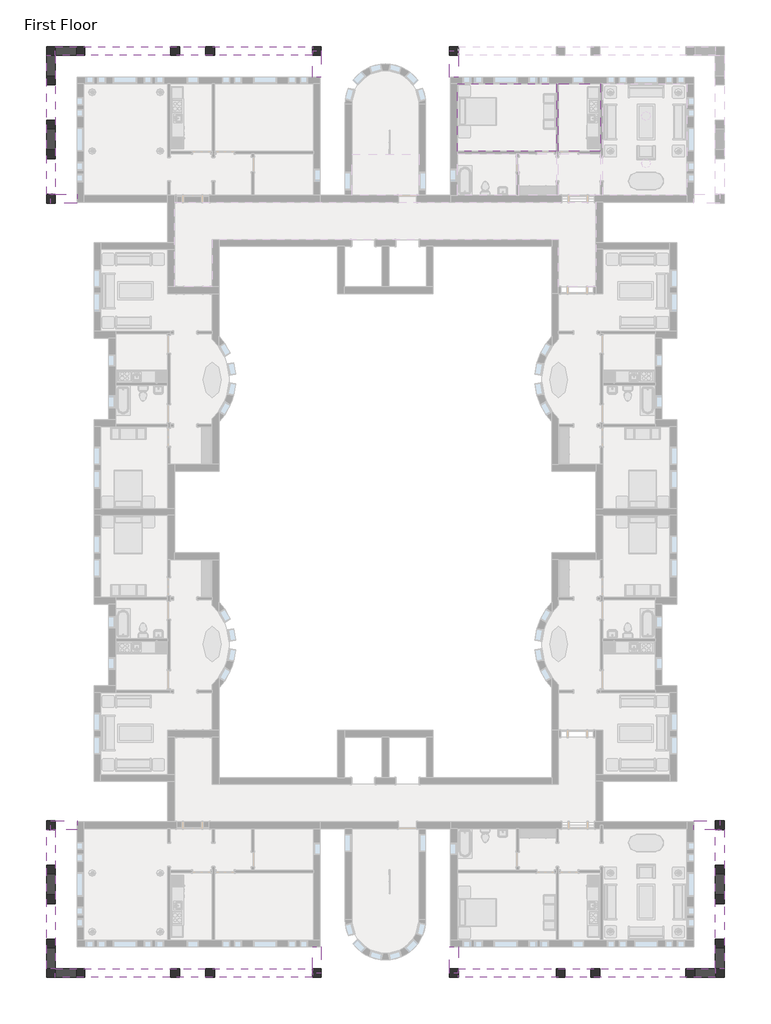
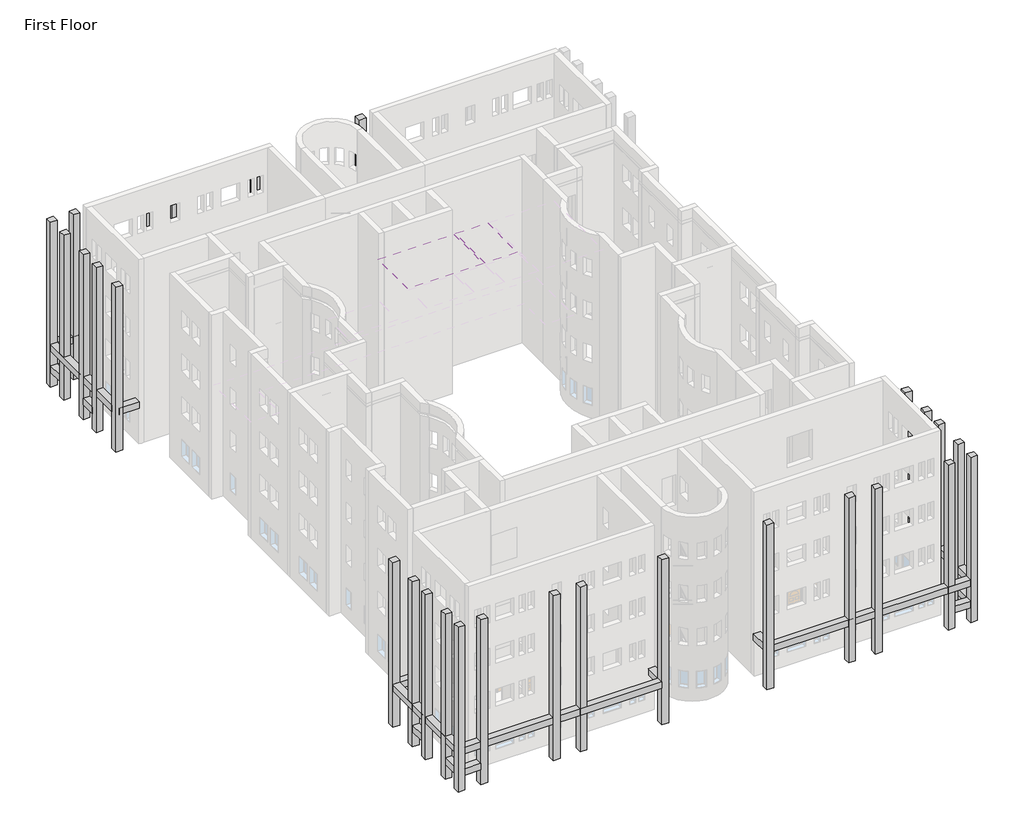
# One storey, part 19 of 24: 28 columns, 22 beams, 2 coverings.
"""IFC4 building model written with IfcOpenShell, lengths in millimetres."""

from ifc_helpers import new_model, si_unit, frame, origin, origin_with_axes, place, context, project, spatial, polyline, outline, extrude, faceted_brep, element, save

model = new_model("IFC4")

# Units and contexts
model_context = context("Model", 3, world=origin())
ifc_project = project(units=[si_unit("LENGTHUNIT", "METRE", prefix="MILLI")], contexts=[model_context])

# Site, building, storey
site = spatial("IfcSite", under=ifc_project)
building = spatial("IfcBuilding", under=site)
storey = spatial("IfcBuildingStorey", under=building, Name="First Floor", Elevation=0.0)

# Beams
placement = place(None, origin())
element("IfcBeam", 1, ObjectType="Concrete-Rectangular Beam : 18 x 18", at=placement, inside=storey, context=model_context, shape_type="Brep", body=[
    faceted_brep([(-11164.8589563, 10624.0316867, 3048.0), (-11622.0589563, 10624.0316867, 3048.0), (-11622.0589563, 10624.0316867, 2590.8), (-11164.8589563, 10624.0316867, 2590.8), (-11164.8589563, 11741.6316867, 3048.0), (-11164.8589563, 11970.2316867, 3048.0), (-11622.0589563, 11970.2316867, 3048.0), (-11622.0589563, 11970.2316867, 2590.8), (-11164.8589563, 11970.2316867, 2590.8), (-11164.8589563, 11741.6316867, 2590.8)], [[[0, 1, 2, 3]], [[1, 0, 4, 5, 6]], [[2, 1, 6, 7]], [[3, 2, 7, 8, 9]], [[0, 3, 9, 8, 5, 4]], [[5, 8, 7, 6]]]),
])
element("IfcBeam", 2, ObjectType="Concrete-Rectangular Beam : 18 x 18", at=placement, inside=storey, context=model_context, shape_type="Brep", body=[
    faceted_brep([(-31964.2839563, 11741.6316867, 3048.0), (-18705.4839563, 11741.6316867, 3048.0), (-18705.4839563, 11970.2316867, 3048.0), (-18705.4839563, 12198.8316867, 3048.0), (-31964.2839563, 12198.8316867, 3048.0), (-31964.2839563, 11741.6316867, 2590.8), (-18705.4839563, 11741.6316867, 2590.8), (-31964.2839563, 12198.8316867, 2590.8), (-18705.4839563, 12198.8316867, 2590.8), (-18705.4839563, 11970.2316867, 2590.8)], [[[0, 1, 2, 3, 4]], [[5, 6, 1, 0]], [[7, 8, 9, 6, 5]], [[4, 3, 8, 7]], [[4, 7, 5, 0]], [[3, 2, 1, 6, 9, 8]]]),
])
element("IfcBeam", 3, ObjectType="Concrete-Rectangular Beam : 18 x 18", at=placement, inside=storey, context=model_context, shape_type="Brep", body=[
    faceted_brep([(-31964.2839563, 4578.8316867, 3048.0), (-31964.2839563, 11741.6316867, 3048.0), (-32421.4839563, 11741.6316867, 3048.0), (-32421.4839563, 4578.8316867, 3048.0), (-32192.8839563, 4578.8316867, 3048.0), (-31964.2839563, 4578.8316867, 2590.8), (-31964.2839563, 11741.6316867, 2590.8), (-32421.4839563, 4578.8316867, 2590.8), (-32421.4839563, 11741.6316867, 2590.8), (-32192.8839563, 4578.8316867, 2590.8)], [[[0, 1, 2, 3, 4]], [[5, 6, 1, 0]], [[7, 8, 6, 5, 9]], [[3, 2, 8, 7]], [[2, 1, 6, 8]], [[3, 7, 9, 5, 0, 4]]]),
])
element("IfcBeam", 4, ObjectType="Concrete-Rectangular Beam : 18 x 18", at=placement, inside=storey, context=model_context, shape_type="Brep", body=[
    faceted_brep([(-18705.4839563, 10624.0316867, 3048.0), (-18705.4839563, 10624.0316867, 2590.8), (-18248.2839563, 10624.0316867, 2590.8), (-18248.2839563, 10624.0316867, 3048.0), (-18248.2839563, 11970.2316867, 3048.0), (-18705.4839563, 11970.2316867, 3048.0), (-18705.4839563, 11741.6316867, 3048.0), (-18248.2839563, 11970.2316867, 2590.8), (-18705.4839563, 11741.6316867, 2590.8), (-18705.4839563, 11970.2316867, 2590.8)], [[[0, 1, 2, 3]], [[3, 4, 5, 6, 0]], [[2, 7, 4, 3]], [[1, 8, 9, 7, 2]], [[0, 6, 5, 9, 8, 1]], [[5, 4, 7, 9]]]),
])
element("IfcBeam", 5, ObjectType="Concrete-Rectangular Beam : 18 x 18", at=placement, inside=storey, context=model_context, shape_type="Brep", body=[
    faceted_brep([(-30846.6839563, 4121.6316867, 3048.0), (-30846.6839563, 4121.6316867, 2590.8), (-30846.6839563, 4578.8316867, 2590.8), (-30846.6839563, 4578.8316867, 3048.0), (-31964.2839563, 4578.8316867, 3048.0), (-32192.8839563, 4578.8316867, 3048.0), (-32192.8839563, 4121.6316867, 3048.0), (-31964.2839563, 4578.8316867, 2590.8), (-32192.8839563, 4578.8316867, 2590.8), (-32192.8839563, 4121.6316867, 2590.8)], [[[0, 1, 2, 3]], [[3, 4, 5, 6, 0]], [[2, 7, 8, 5, 4, 3]], [[1, 9, 8, 7, 2]], [[0, 6, 9, 1]], [[6, 5, 8, 9]]]),
])
element("IfcBeam", 6, ObjectType="Concrete-Rectangular Beam : 18 x 18", at=placement, inside=storey, context=model_context, shape_type="SweptSolid", body=[
    extrude(outline(polyline([(-30897.4839563, 11741.6316867), (-31964.2839563, 11741.6316867), (-31964.2839563, 12198.8316867), (-30897.4839563, 12198.8316867), (-30897.4839563, 11741.6316867)])), frame((0.0, 0.0, 1066.8), z_axis=(0.0, 0.0, 1.0), x_axis=(1.0, 0.0, 0.0)), (0.0, 0.0, 1.0), 457.2),
])
element("IfcBeam", 7, ObjectType="Concrete-Rectangular Beam : 18 x 18", at=placement, inside=storey, context=model_context, shape_type="SweptSolid", body=[
    extrude(outline(polyline([(-32421.4839563, 10674.8316867), (-32421.4839563, 11741.6316867), (-31964.2839563, 11741.6316867), (-31964.2839563, 10674.8316867), (-32421.4839563, 10674.8316867)])), frame((0.0, 0.0, 1066.8), z_axis=(0.0, 0.0, 1.0), x_axis=(1.0, 0.0, 0.0)), (0.0, 0.0, 1.0), 457.2),
])
element("IfcBeam", 8, ObjectType="Concrete-Rectangular Beam : 18 x 18", at=placement, inside=storey, context=model_context, shape_type="SweptSolid", body=[
    extrude(outline(polyline([(-32421.4839563, 6864.8316867), (-32421.4839563, 7931.6316867), (-31964.2839563, 7931.6316867), (-31964.2839563, 6864.8316867), (-32421.4839563, 6864.8316867)])), frame((0.0, 0.0, 1066.8), z_axis=(0.0, 0.0, 1.0), x_axis=(1.0, 0.0, 0.0)), (0.0, 0.0, 1.0), 457.2),
])
element("IfcBeam", 9, ObjectType="Concrete-Rectangular Beam : 18 x 18", at=placement, inside=storey, context=model_context, shape_type="Brep", body=[
    faceted_brep([(2093.9410437, -35349.9683133, 3048.0), (-11164.8589563, -35349.9683133, 3048.0), (-11164.8589563, -35578.5683133, 3048.0), (-11164.8589563, -35807.1683133, 3048.0), (2093.9410437, -35807.1683133, 3048.0), (2093.9410437, -35349.9683133, 2590.8), (-11164.8589563, -35349.9683133, 2590.8), (2093.9410437, -35807.1683133, 2590.8), (-11164.8589563, -35807.1683133, 2590.8), (-11164.8589563, -35578.5683133, 2590.8)], [[[0, 1, 2, 3, 4]], [[5, 6, 1, 0]], [[7, 8, 9, 6, 5]], [[4, 3, 8, 7]], [[4, 7, 5, 0]], [[3, 2, 1, 6, 9, 8]]]),
])
element("IfcBeam", 10, ObjectType="Concrete-Rectangular Beam : 18 x 18", at=placement, inside=storey, context=model_context, shape_type="Brep", body=[
    faceted_brep([(2093.9410437, -28187.1683133, 3048.0), (2093.9410437, -35349.9683133, 3048.0), (2551.1410437, -35349.9683133, 3048.0), (2551.1410437, -28187.1683133, 3048.0), (2322.5410437, -28187.1683133, 3048.0), (2093.9410437, -28187.1683133, 2590.8), (2093.9410437, -35349.9683133, 2590.8), (2551.1410437, -28187.1683133, 2590.8), (2551.1410437, -35349.9683133, 2590.8), (2322.5410437, -28187.1683133, 2590.8)], [[[0, 1, 2, 3, 4]], [[5, 6, 1, 0]], [[7, 8, 6, 5, 9]], [[3, 2, 8, 7]], [[2, 1, 6, 8]], [[3, 7, 9, 5, 0, 4]]]),
])
element("IfcBeam", 11, ObjectType="Concrete-Rectangular Beam : 18 x 18", at=placement, inside=storey, context=model_context, shape_type="Brep", body=[
    faceted_brep([(-11164.8589563, -34232.3683133, 3048.0), (-11164.8589563, -34232.3683133, 2590.8), (-11622.0589563, -34232.3683133, 2590.8), (-11622.0589563, -34232.3683133, 3048.0), (-11622.0589563, -35578.5683133, 3048.0), (-11164.8589563, -35578.5683133, 3048.0), (-11164.8589563, -35349.9683133, 3048.0), (-11622.0589563, -35578.5683133, 2590.8), (-11164.8589563, -35349.9683133, 2590.8), (-11164.8589563, -35578.5683133, 2590.8)], [[[0, 1, 2, 3]], [[3, 4, 5, 6, 0]], [[2, 7, 4, 3]], [[1, 8, 9, 7, 2]], [[0, 6, 5, 9, 8, 1]], [[5, 4, 7, 9]]]),
])
element("IfcBeam", 12, ObjectType="Concrete-Rectangular Beam : 18 x 18", at=placement, inside=storey, context=model_context, shape_type="Brep", body=[
    faceted_brep([(976.3410437, -27729.9683133, 3048.0), (976.3410437, -27729.9683133, 2590.8), (976.3410437, -28187.1683133, 2590.8), (976.3410437, -28187.1683133, 3048.0), (2093.9410437, -28187.1683133, 3048.0), (2322.5410437, -28187.1683133, 3048.0), (2322.5410437, -27729.9683133, 3048.0), (2093.9410437, -28187.1683133, 2590.8), (2322.5410437, -28187.1683133, 2590.8), (2322.5410437, -27729.9683133, 2590.8)], [[[0, 1, 2, 3]], [[3, 4, 5, 6, 0]], [[2, 7, 8, 5, 4, 3]], [[1, 9, 8, 7, 2]], [[0, 6, 9, 1]], [[6, 5, 8, 9]]]),
])
element("IfcBeam", 13, ObjectType="Concrete-Rectangular Beam : 18 x 18", at=placement, inside=storey, context=model_context, shape_type="SweptSolid", body=[
    extrude(outline(polyline([(1027.1410437, -35349.9683133), (2093.9410437, -35349.9683133), (2093.9410437, -35807.1683133), (1027.1410437, -35807.1683133), (1027.1410437, -35349.9683133)])), frame((0.0, 0.0, 1066.8), z_axis=(0.0, 0.0, 1.0), x_axis=(1.0, 0.0, 0.0)), (0.0, 0.0, 1.0), 457.2),
])
element("IfcBeam", 14, ObjectType="Concrete-Rectangular Beam : 18 x 18", at=placement, inside=storey, context=model_context, shape_type="SweptSolid", body=[
    extrude(outline(polyline([(2551.1410437, -34283.1683133), (2551.1410437, -35349.9683133), (2093.9410437, -35349.9683133), (2093.9410437, -34283.1683133), (2551.1410437, -34283.1683133)])), frame((0.0, 0.0, 1066.8), z_axis=(0.0, 0.0, 1.0), x_axis=(1.0, 0.0, 0.0)), (0.0, 0.0, 1.0), 457.2),
])
element("IfcBeam", 15, ObjectType="Concrete-Rectangular Beam : 18 x 18", at=placement, inside=storey, context=model_context, shape_type="SweptSolid", body=[
    extrude(outline(polyline([(2551.1410437, -30473.1683133), (2551.1410437, -31539.9683133), (2093.9410437, -31539.9683133), (2093.9410437, -30473.1683133), (2551.1410437, -30473.1683133)])), frame((0.0, 0.0, 1066.8), z_axis=(0.0, 0.0, 1.0), x_axis=(1.0, 0.0, 0.0)), (0.0, 0.0, 1.0), 457.2),
])
element("IfcBeam", 16, ObjectType="Concrete-Rectangular Beam : 18 x 18", at=placement, inside=storey, context=model_context, shape_type="Brep", body=[
    faceted_brep([(-31964.2839563, -35349.9683133, 3048.0), (-31964.2839563, -35807.1683133, 3048.0), (-18705.4839563, -35807.1683133, 3048.0), (-18705.4839563, -35578.5683133, 3048.0), (-18705.4839563, -35349.9683133, 3048.0), (-31964.2839563, -35349.9683133, 2590.8), (-18705.4839563, -35349.9683133, 2590.8), (-31964.2839563, -35807.1683133, 2590.8), (-18705.4839563, -35578.5683133, 2590.8), (-18705.4839563, -35807.1683133, 2590.8)], [[[0, 1, 2, 3, 4]], [[5, 0, 4, 6]], [[7, 5, 6, 8, 9]], [[1, 7, 9, 2]], [[1, 0, 5, 7]], [[2, 9, 8, 6, 4, 3]]]),
])
element("IfcBeam", 17, ObjectType="Concrete-Rectangular Beam : 18 x 18", at=placement, inside=storey, context=model_context, shape_type="Brep", body=[
    faceted_brep([(-31964.2839563, -28187.1683133, 3048.0), (-32192.8839563, -28187.1683133, 3048.0), (-32421.4839563, -28187.1683133, 3048.0), (-32421.4839563, -35349.9683133, 3048.0), (-31964.2839563, -35349.9683133, 3048.0), (-31964.2839563, -28187.1683133, 2590.8), (-31964.2839563, -35349.9683133, 2590.8), (-32421.4839563, -28187.1683133, 2590.8), (-32192.8839563, -28187.1683133, 2590.8), (-32421.4839563, -35349.9683133, 2590.8)], [[[0, 1, 2, 3, 4]], [[5, 0, 4, 6]], [[7, 8, 5, 6, 9]], [[2, 7, 9, 3]], [[3, 9, 6, 4]], [[2, 1, 0, 5, 8, 7]]]),
])
element("IfcBeam", 18, ObjectType="Concrete-Rectangular Beam : 18 x 18", at=placement, inside=storey, context=model_context, shape_type="Brep", body=[
    faceted_brep([(-18705.4839563, -34232.3683133, 3048.0), (-18248.2839563, -34232.3683133, 3048.0), (-18248.2839563, -34232.3683133, 2590.8), (-18705.4839563, -34232.3683133, 2590.8), (-18705.4839563, -35349.9683133, 3048.0), (-18705.4839563, -35578.5683133, 3048.0), (-18248.2839563, -35578.5683133, 3048.0), (-18248.2839563, -35578.5683133, 2590.8), (-18705.4839563, -35578.5683133, 2590.8), (-18705.4839563, -35349.9683133, 2590.8)], [[[0, 1, 2, 3]], [[1, 0, 4, 5, 6]], [[2, 1, 6, 7]], [[3, 2, 7, 8, 9]], [[0, 3, 9, 8, 5, 4]], [[5, 8, 7, 6]]]),
])
element("IfcBeam", 19, ObjectType="Concrete-Rectangular Beam : 18 x 18", at=placement, inside=storey, context=model_context, shape_type="Brep", body=[
    faceted_brep([(-30846.6839563, -27729.9683133, 3048.0), (-30846.6839563, -28187.1683133, 3048.0), (-30846.6839563, -28187.1683133, 2590.8), (-30846.6839563, -27729.9683133, 2590.8), (-32192.8839563, -27729.9683133, 3048.0), (-32192.8839563, -28187.1683133, 3048.0), (-31964.2839563, -28187.1683133, 3048.0), (-32192.8839563, -28187.1683133, 2590.8), (-31964.2839563, -28187.1683133, 2590.8), (-32192.8839563, -27729.9683133, 2590.8)], [[[0, 1, 2, 3]], [[1, 0, 4, 5, 6]], [[2, 1, 6, 5, 7, 8]], [[3, 2, 8, 7, 9]], [[0, 3, 9, 4]], [[4, 9, 7, 5]]]),
])
element("IfcBeam", 20, ObjectType="Concrete-Rectangular Beam : 18 x 18", at=placement, inside=storey, context=model_context, shape_type="SweptSolid", body=[
    extrude(outline(polyline([(-30897.4839563, -35349.9683133), (-30897.4839563, -35807.1683133), (-31964.2839563, -35807.1683133), (-31964.2839563, -35349.9683133), (-30897.4839563, -35349.9683133)])), frame((0.0, 0.0, 1066.8), z_axis=(0.0, 0.0, 1.0), x_axis=(1.0, 0.0, 0.0)), (0.0, 0.0, 1.0), 457.2),
])
element("IfcBeam", 21, ObjectType="Concrete-Rectangular Beam : 18 x 18", at=placement, inside=storey, context=model_context, shape_type="SweptSolid", body=[
    extrude(outline(polyline([(-32421.4839563, -34283.1683133), (-31964.2839563, -34283.1683133), (-31964.2839563, -35349.9683133), (-32421.4839563, -35349.9683133), (-32421.4839563, -34283.1683133)])), frame((0.0, 0.0, 1066.8), z_axis=(0.0, 0.0, 1.0), x_axis=(1.0, 0.0, 0.0)), (0.0, 0.0, 1.0), 457.2),
])
element("IfcBeam", 22, ObjectType="Concrete-Rectangular Beam : 18 x 18", at=placement, inside=storey, context=model_context, shape_type="SweptSolid", body=[
    extrude(outline(polyline([(-32421.4839563, -30473.1683133), (-31964.2839563, -30473.1683133), (-31964.2839563, -31539.9683133), (-32421.4839563, -31539.9683133), (-32421.4839563, -30473.1683133)])), frame((0.0, 0.0, 1066.8), z_axis=(0.0, 0.0, 1.0), x_axis=(1.0, 0.0, 0.0)), (0.0, 0.0, 1.0), 457.2),
])

# Columns
element("IfcColumn", 23, ObjectType="Concrete-Square-Column : 18 x 18", at=placement, inside=storey, context=model_context, shape_type="SweptSolid", body=[
    extrude(outline(polyline([(-11164.8589563, 12198.8316867), (-11164.8589563, 11741.6316867), (-11622.0589563, 11741.6316867), (-11622.0589563, 12198.8316867), (-11164.8589563, 12198.8316867)])), origin_with_axes(), (0.0, 0.0, 1.0), 11734.8),
])
element("IfcColumn", 24, ObjectType="Concrete-Square-Column : 18 x 18", at=placement, inside=storey, context=model_context, shape_type="Brep", body=[
    faceted_brep([(-30897.4839563, 12198.8316867, 11734.8), (-30897.4839563, 11741.6316867, 11734.8), (-30440.2839563, 11741.6316867, 11734.8), (-30440.2839563, 12198.8316867, 11734.8), (-30897.4839563, 12198.8316867, 0.0), (-30440.2839563, 12198.8316867, 0.0), (-30440.2839563, 11741.6316867, 0.0), (-30897.4839563, 11741.6316867, 0.0), (-30440.2839563, 12198.8316867, 9144.0), (-30440.2839563, 12198.8316867, 8686.8), (-30440.2839563, 12198.8316867, 6096.0), (-30440.2839563, 12198.8316867, 5638.8), (-30897.4839563, 12198.8316867, 5638.8), (-30897.4839563, 12198.8316867, 6096.0), (-30897.4839563, 12198.8316867, 8686.8), (-30897.4839563, 12198.8316867, 9144.0), (-30440.2839563, 11741.6316867, 9144.0), (-30440.2839563, 11741.6316867, 8686.8), (-30440.2839563, 11741.6316867, 6096.0), (-30440.2839563, 11741.6316867, 5638.8), (-30897.4839563, 11741.6316867, 9144.0), (-30897.4839563, 11741.6316867, 8686.8), (-30897.4839563, 11741.6316867, 6096.0), (-30897.4839563, 11741.6316867, 5638.8)], [[[0, 1, 2, 3]], [[4, 5, 6, 7]], [[3, 8, 9, 10, 11, 5, 4, 12, 13, 14, 15, 0]], [[2, 16, 17, 18, 19, 6, 5, 11, 10, 9, 8, 3]], [[1, 20, 21, 22, 23, 7, 6, 19, 18, 17, 16, 2]], [[0, 15, 14, 13, 12, 4, 7, 23, 22, 21, 20, 1]]]),
])
element("IfcColumn", 25, ObjectType="Concrete-Square-Column : 18 x 18", at=placement, inside=storey, context=model_context, shape_type="Brep", body=[
    faceted_brep([(-32421.4839563, 10674.8316867, 11734.8), (-32421.4839563, 10217.6316867, 11734.8), (-31964.2839563, 10217.6316867, 11734.8), (-31964.2839563, 10674.8316867, 11734.8), (-32421.4839563, 10674.8316867, 0.0), (-31964.2839563, 10674.8316867, 0.0), (-31964.2839563, 10217.6316867, 0.0), (-32421.4839563, 10217.6316867, 0.0), (-32421.4839563, 10674.8316867, 9144.0), (-32421.4839563, 10674.8316867, 8686.8), (-32421.4839563, 10674.8316867, 6096.0), (-32421.4839563, 10674.8316867, 5638.8), (-32421.4839563, 10217.6316867, 5638.8), (-32421.4839563, 10217.6316867, 6096.0), (-32421.4839563, 10217.6316867, 8686.8), (-32421.4839563, 10217.6316867, 9144.0), (-31964.2839563, 10217.6316867, 5638.8), (-31964.2839563, 10217.6316867, 6096.0), (-31964.2839563, 10217.6316867, 8686.8), (-31964.2839563, 10217.6316867, 9144.0), (-31964.2839563, 10674.8316867, 5638.8), (-31964.2839563, 10674.8316867, 6096.0), (-31964.2839563, 10674.8316867, 8686.8), (-31964.2839563, 10674.8316867, 9144.0)], [[[0, 1, 2, 3]], [[4, 5, 6, 7]], [[1, 0, 8, 9, 10, 11, 4, 7, 12, 13, 14, 15]], [[2, 1, 15, 14, 13, 12, 7, 6, 16, 17, 18, 19]], [[3, 2, 19, 18, 17, 16, 6, 5, 20, 21, 22, 23]], [[0, 3, 23, 22, 21, 20, 5, 4, 11, 10, 9, 8]]]),
])
element("IfcColumn", 26, ObjectType="Concrete-Square-Column : 18 x 18", at=placement, inside=storey, context=model_context, shape_type="SweptSolid", body=[
    extrude(outline(polyline([(-18705.4839563, 12198.8316867), (-18248.2839563, 12198.8316867), (-18248.2839563, 11741.6316867), (-18705.4839563, 11741.6316867), (-18705.4839563, 12198.8316867)])), origin_with_axes(), (0.0, 0.0, 1.0), 11734.8),
])
element("IfcColumn", 27, ObjectType="Concrete-Square-Column : 18 x 18", at=placement, inside=storey, context=model_context, shape_type="SweptSolid", body=[
    extrude(outline(polyline([(-32421.4839563, 4578.8316867), (-31964.2839563, 4578.8316867), (-31964.2839563, 4121.6316867), (-32421.4839563, 4121.6316867), (-32421.4839563, 4578.8316867)])), origin_with_axes(), (0.0, 0.0, 1.0), 11734.8),
])
element("IfcColumn", 28, ObjectType="Concrete-Square-Column : 18 x 18", at=placement, inside=storey, context=model_context, shape_type="SweptSolid", body=[
    extrude(outline(polyline([(-32421.4839563, 12198.8316867), (-31964.2839563, 12198.8316867), (-31964.2839563, 11741.6316867), (-32421.4839563, 11741.6316867), (-32421.4839563, 12198.8316867)])), origin_with_axes(), (0.0, 0.0, 1.0), 11734.8),
])
element("IfcColumn", 29, ObjectType="Concrete-Square-Column : 18 x 18", at=placement, inside=storey, context=model_context, shape_type="Brep", body=[
    faceted_brep([(-26007.9839563, 12198.8316867, 11734.8), (-26007.9839563, 11741.6316867, 11734.8), (-25550.7839563, 11741.6316867, 11734.8), (-25550.7839563, 12198.8316867, 11734.8), (-26007.9839563, 12198.8316867, 0.0), (-25550.7839563, 12198.8316867, 0.0), (-25550.7839563, 11741.6316867, 0.0), (-26007.9839563, 11741.6316867, 0.0), (-25550.7839563, 12198.8316867, 9144.0), (-25550.7839563, 12198.8316867, 8686.8), (-25550.7839563, 12198.8316867, 6096.0), (-25550.7839563, 12198.8316867, 5638.8), (-26007.9839563, 12198.8316867, 5638.8), (-26007.9839563, 12198.8316867, 6096.0), (-26007.9839563, 12198.8316867, 8686.8), (-26007.9839563, 12198.8316867, 9144.0), (-25550.7839563, 11741.6316867, 9144.0), (-25550.7839563, 11741.6316867, 8686.8), (-25550.7839563, 11741.6316867, 6096.0), (-25550.7839563, 11741.6316867, 5638.8), (-26007.9839563, 11741.6316867, 9144.0), (-26007.9839563, 11741.6316867, 8686.8), (-26007.9839563, 11741.6316867, 6096.0), (-26007.9839563, 11741.6316867, 5638.8)], [[[0, 1, 2, 3]], [[4, 5, 6, 7]], [[3, 8, 9, 10, 11, 5, 4, 12, 13, 14, 15, 0]], [[2, 16, 17, 18, 19, 6, 5, 11, 10, 9, 8, 3]], [[1, 20, 21, 22, 23, 7, 6, 19, 18, 17, 16, 2]], [[0, 15, 14, 13, 12, 4, 7, 23, 22, 21, 20, 1]]]),
])
element("IfcColumn", 30, ObjectType="Concrete-Square-Column : 18 x 18", at=placement, inside=storey, context=model_context, shape_type="Brep", body=[
    faceted_brep([(-23747.3839563, 12198.8316867, 11734.8), (-24204.5839563, 12198.8316867, 11734.8), (-24204.5839563, 11741.6316867, 11734.8), (-23747.3839563, 11741.6316867, 11734.8), (-23747.3839563, 12198.8316867, 0.0), (-23747.3839563, 11741.6316867, 0.0), (-24204.5839563, 11741.6316867, 0.0), (-24204.5839563, 12198.8316867, 0.0), (-23747.3839563, 12198.8316867, 9144.0), (-23747.3839563, 12198.8316867, 8686.8), (-23747.3839563, 12198.8316867, 6096.0), (-23747.3839563, 12198.8316867, 5638.8), (-24204.5839563, 12198.8316867, 5638.8), (-24204.5839563, 12198.8316867, 6096.0), (-24204.5839563, 12198.8316867, 8686.8), (-24204.5839563, 12198.8316867, 9144.0), (-24204.5839563, 11741.6316867, 5638.8), (-24204.5839563, 11741.6316867, 6096.0), (-24204.5839563, 11741.6316867, 8686.8), (-24204.5839563, 11741.6316867, 9144.0), (-23747.3839563, 11741.6316867, 5638.8), (-23747.3839563, 11741.6316867, 6096.0), (-23747.3839563, 11741.6316867, 8686.8), (-23747.3839563, 11741.6316867, 9144.0)], [[[0, 1, 2, 3]], [[4, 5, 6, 7]], [[1, 0, 8, 9, 10, 11, 4, 7, 12, 13, 14, 15]], [[2, 1, 15, 14, 13, 12, 7, 6, 16, 17, 18, 19]], [[3, 2, 19, 18, 17, 16, 6, 5, 20, 21, 22, 23]], [[0, 3, 23, 22, 21, 20, 5, 4, 11, 10, 9, 8]]]),
])
element("IfcColumn", 31, ObjectType="Concrete-Square-Column : 18 x 18", at=placement, inside=storey, context=model_context, shape_type="Brep", body=[
    faceted_brep([(-32421.4839563, 6864.8316867, 11734.8), (-32421.4839563, 6407.6316867, 11734.8), (-31964.2839563, 6407.6316867, 11734.8), (-31964.2839563, 6864.8316867, 11734.8), (-32421.4839563, 6864.8316867, 0.0), (-31964.2839563, 6864.8316867, 0.0), (-31964.2839563, 6407.6316867, 0.0), (-32421.4839563, 6407.6316867, 0.0), (-32421.4839563, 6864.8316867, 9144.0), (-32421.4839563, 6864.8316867, 8686.8), (-32421.4839563, 6864.8316867, 6096.0), (-32421.4839563, 6864.8316867, 5638.8), (-32421.4839563, 6407.6316867, 5638.8), (-32421.4839563, 6407.6316867, 6096.0), (-32421.4839563, 6407.6316867, 8686.8), (-32421.4839563, 6407.6316867, 9144.0), (-31964.2839563, 6407.6316867, 5638.8), (-31964.2839563, 6407.6316867, 6096.0), (-31964.2839563, 6407.6316867, 8686.8), (-31964.2839563, 6407.6316867, 9144.0), (-31964.2839563, 6864.8316867, 5638.8), (-31964.2839563, 6864.8316867, 6096.0), (-31964.2839563, 6864.8316867, 8686.8), (-31964.2839563, 6864.8316867, 9144.0)], [[[0, 1, 2, 3]], [[4, 5, 6, 7]], [[1, 0, 8, 9, 10, 11, 4, 7, 12, 13, 14, 15]], [[2, 1, 15, 14, 13, 12, 7, 6, 16, 17, 18, 19]], [[3, 2, 19, 18, 17, 16, 6, 5, 20, 21, 22, 23]], [[0, 3, 23, 22, 21, 20, 5, 4, 11, 10, 9, 8]]]),
])
element("IfcColumn", 32, ObjectType="Concrete-Square-Column : 18 x 18", at=placement, inside=storey, context=model_context, shape_type="Brep", body=[
    faceted_brep([(-32421.4839563, 8388.8316867, 11734.8), (-32421.4839563, 7931.6316867, 11734.8), (-31964.2839563, 7931.6316867, 11734.8), (-31964.2839563, 8388.8316867, 11734.8), (-32421.4839563, 8388.8316867, 0.0), (-31964.2839563, 8388.8316867, 0.0), (-31964.2839563, 7931.6316867, 0.0), (-32421.4839563, 7931.6316867, 0.0), (-31964.2839563, 8388.8316867, 9144.0), (-31964.2839563, 8388.8316867, 8686.8), (-31964.2839563, 8388.8316867, 6096.0), (-31964.2839563, 8388.8316867, 5638.8), (-32421.4839563, 8388.8316867, 5638.8), (-32421.4839563, 8388.8316867, 6096.0), (-32421.4839563, 8388.8316867, 8686.8), (-32421.4839563, 8388.8316867, 9144.0), (-31964.2839563, 7931.6316867, 9144.0), (-31964.2839563, 7931.6316867, 8686.8), (-31964.2839563, 7931.6316867, 6096.0), (-31964.2839563, 7931.6316867, 5638.8), (-32421.4839563, 7931.6316867, 9144.0), (-32421.4839563, 7931.6316867, 8686.8), (-32421.4839563, 7931.6316867, 6096.0), (-32421.4839563, 7931.6316867, 5638.8)], [[[0, 1, 2, 3]], [[4, 5, 6, 7]], [[3, 8, 9, 10, 11, 5, 4, 12, 13, 14, 15, 0]], [[2, 16, 17, 18, 19, 6, 5, 11, 10, 9, 8, 3]], [[1, 20, 21, 22, 23, 7, 6, 19, 18, 17, 16, 2]], [[0, 15, 14, 13, 12, 4, 7, 23, 22, 21, 20, 1]]]),
])
element("IfcColumn", 33, ObjectType="Concrete-Square-Column : 18 x 18", at=placement, inside=storey, context=model_context, shape_type="Brep", body=[
    faceted_brep([(1027.1410437, -35807.1683133, 11734.8), (1027.1410437, -35349.9683133, 11734.8), (569.9410437, -35349.9683133, 11734.8), (569.9410437, -35807.1683133, 11734.8), (1027.1410437, -35807.1683133, 0.0), (569.9410437, -35807.1683133, 0.0), (569.9410437, -35349.9683133, 0.0), (1027.1410437, -35349.9683133, 0.0), (569.9410437, -35807.1683133, 9144.0), (569.9410437, -35807.1683133, 8686.8), (569.9410437, -35807.1683133, 6096.0), (569.9410437, -35807.1683133, 5638.8), (1027.1410437, -35807.1683133, 5638.8), (1027.1410437, -35807.1683133, 6096.0), (1027.1410437, -35807.1683133, 8686.8), (1027.1410437, -35807.1683133, 9144.0), (569.9410437, -35349.9683133, 9144.0), (569.9410437, -35349.9683133, 8686.8), (569.9410437, -35349.9683133, 6096.0), (569.9410437, -35349.9683133, 5638.8), (1027.1410437, -35349.9683133, 9144.0), (1027.1410437, -35349.9683133, 8686.8), (1027.1410437, -35349.9683133, 6096.0), (1027.1410437, -35349.9683133, 5638.8)], [[[0, 1, 2, 3]], [[4, 5, 6, 7]], [[3, 8, 9, 10, 11, 5, 4, 12, 13, 14, 15, 0]], [[2, 16, 17, 18, 19, 6, 5, 11, 10, 9, 8, 3]], [[1, 20, 21, 22, 23, 7, 6, 19, 18, 17, 16, 2]], [[0, 15, 14, 13, 12, 4, 7, 23, 22, 21, 20, 1]]]),
])
element("IfcColumn", 34, ObjectType="Concrete-Square-Column : 18 x 18", at=placement, inside=storey, context=model_context, shape_type="Brep", body=[
    faceted_brep([(2551.1410437, -34283.1683133, 11734.8), (2551.1410437, -33825.9683133, 11734.8), (2093.9410437, -33825.9683133, 11734.8), (2093.9410437, -34283.1683133, 11734.8), (2551.1410437, -34283.1683133, 0.0), (2093.9410437, -34283.1683133, 0.0), (2093.9410437, -33825.9683133, 0.0), (2551.1410437, -33825.9683133, 0.0), (2551.1410437, -34283.1683133, 9144.0), (2551.1410437, -34283.1683133, 8686.8), (2551.1410437, -34283.1683133, 6096.0), (2551.1410437, -34283.1683133, 5638.8), (2551.1410437, -33825.9683133, 5638.8), (2551.1410437, -33825.9683133, 6096.0), (2551.1410437, -33825.9683133, 8686.8), (2551.1410437, -33825.9683133, 9144.0), (2093.9410437, -33825.9683133, 5638.8), (2093.9410437, -33825.9683133, 6096.0), (2093.9410437, -33825.9683133, 8686.8), (2093.9410437, -33825.9683133, 9144.0), (2093.9410437, -34283.1683133, 5638.8), (2093.9410437, -34283.1683133, 6096.0), (2093.9410437, -34283.1683133, 8686.8), (2093.9410437, -34283.1683133, 9144.0)], [[[0, 1, 2, 3]], [[4, 5, 6, 7]], [[1, 0, 8, 9, 10, 11, 4, 7, 12, 13, 14, 15]], [[2, 1, 15, 14, 13, 12, 7, 6, 16, 17, 18, 19]], [[3, 2, 19, 18, 17, 16, 6, 5, 20, 21, 22, 23]], [[0, 3, 23, 22, 21, 20, 5, 4, 11, 10, 9, 8]]]),
])
element("IfcColumn", 35, ObjectType="Concrete-Square-Column : 18 x 18", at=placement, inside=storey, context=model_context, shape_type="SweptSolid", body=[
    extrude(outline(polyline([(-11164.8589563, -35807.1683133), (-11622.0589563, -35807.1683133), (-11622.0589563, -35349.9683133), (-11164.8589563, -35349.9683133), (-11164.8589563, -35807.1683133)])), origin_with_axes(), (0.0, 0.0, 1.0), 11734.8),
])
element("IfcColumn", 36, ObjectType="Concrete-Square-Column : 18 x 18", at=placement, inside=storey, context=model_context, shape_type="SweptSolid", body=[
    extrude(outline(polyline([(2551.1410437, -28187.1683133), (2093.9410437, -28187.1683133), (2093.9410437, -27729.9683133), (2551.1410437, -27729.9683133), (2551.1410437, -28187.1683133)])), origin_with_axes(), (0.0, 0.0, 1.0), 11734.8),
])
element("IfcColumn", 37, ObjectType="Concrete-Square-Column : 18 x 18", at=placement, inside=storey, context=model_context, shape_type="SweptSolid", body=[
    extrude(outline(polyline([(2551.1410437, -35807.1683133), (2093.9410437, -35807.1683133), (2093.9410437, -35349.9683133), (2551.1410437, -35349.9683133), (2551.1410437, -35807.1683133)])), origin_with_axes(), (0.0, 0.0, 1.0), 11734.8),
])
element("IfcColumn", 38, ObjectType="Concrete-Square-Column : 18 x 18", at=placement, inside=storey, context=model_context, shape_type="Brep", body=[
    faceted_brep([(-3862.3589563, -35807.1683133, 11734.8), (-3862.3589563, -35349.9683133, 11734.8), (-4319.5589563, -35349.9683133, 11734.8), (-4319.5589563, -35807.1683133, 11734.8), (-3862.3589563, -35807.1683133, 0.0), (-4319.5589563, -35807.1683133, 0.0), (-4319.5589563, -35349.9683133, 0.0), (-3862.3589563, -35349.9683133, 0.0), (-4319.5589563, -35807.1683133, 9144.0), (-4319.5589563, -35807.1683133, 8686.8), (-4319.5589563, -35807.1683133, 6096.0), (-4319.5589563, -35807.1683133, 5638.8), (-3862.3589563, -35807.1683133, 5638.8), (-3862.3589563, -35807.1683133, 6096.0), (-3862.3589563, -35807.1683133, 8686.8), (-3862.3589563, -35807.1683133, 9144.0), (-4319.5589563, -35349.9683133, 9144.0), (-4319.5589563, -35349.9683133, 8686.8), (-4319.5589563, -35349.9683133, 6096.0), (-4319.5589563, -35349.9683133, 5638.8), (-3862.3589563, -35349.9683133, 9144.0), (-3862.3589563, -35349.9683133, 8686.8), (-3862.3589563, -35349.9683133, 6096.0), (-3862.3589563, -35349.9683133, 5638.8)], [[[0, 1, 2, 3]], [[4, 5, 6, 7]], [[3, 8, 9, 10, 11, 5, 4, 12, 13, 14, 15, 0]], [[2, 16, 17, 18, 19, 6, 5, 11, 10, 9, 8, 3]], [[1, 20, 21, 22, 23, 7, 6, 19, 18, 17, 16, 2]], [[0, 15, 14, 13, 12, 4, 7, 23, 22, 21, 20, 1]]]),
])
element("IfcColumn", 39, ObjectType="Concrete-Square-Column : 18 x 18", at=placement, inside=storey, context=model_context, shape_type="Brep", body=[
    faceted_brep([(-6122.9589563, -35807.1683133, 11734.8), (-5665.7589563, -35807.1683133, 11734.8), (-5665.7589563, -35349.9683133, 11734.8), (-6122.9589563, -35349.9683133, 11734.8), (-6122.9589563, -35807.1683133, 0.0), (-6122.9589563, -35349.9683133, 0.0), (-5665.7589563, -35349.9683133, 0.0), (-5665.7589563, -35807.1683133, 0.0), (-6122.9589563, -35807.1683133, 9144.0), (-6122.9589563, -35807.1683133, 8686.8), (-6122.9589563, -35807.1683133, 6096.0), (-6122.9589563, -35807.1683133, 5638.8), (-5665.7589563, -35807.1683133, 5638.8), (-5665.7589563, -35807.1683133, 6096.0), (-5665.7589563, -35807.1683133, 8686.8), (-5665.7589563, -35807.1683133, 9144.0), (-5665.7589563, -35349.9683133, 5638.8), (-5665.7589563, -35349.9683133, 6096.0), (-5665.7589563, -35349.9683133, 8686.8), (-5665.7589563, -35349.9683133, 9144.0), (-6122.9589563, -35349.9683133, 5638.8), (-6122.9589563, -35349.9683133, 6096.0), (-6122.9589563, -35349.9683133, 8686.8), (-6122.9589563, -35349.9683133, 9144.0)], [[[0, 1, 2, 3]], [[4, 5, 6, 7]], [[1, 0, 8, 9, 10, 11, 4, 7, 12, 13, 14, 15]], [[2, 1, 15, 14, 13, 12, 7, 6, 16, 17, 18, 19]], [[3, 2, 19, 18, 17, 16, 6, 5, 20, 21, 22, 23]], [[0, 3, 23, 22, 21, 20, 5, 4, 11, 10, 9, 8]]]),
])
element("IfcColumn", 40, ObjectType="Concrete-Square-Column : 18 x 18", at=placement, inside=storey, context=model_context, shape_type="Brep", body=[
    faceted_brep([(2551.1410437, -30473.1683133, 11734.8), (2551.1410437, -30015.9683133, 11734.8), (2093.9410437, -30015.9683133, 11734.8), (2093.9410437, -30473.1683133, 11734.8), (2551.1410437, -30473.1683133, 0.0), (2093.9410437, -30473.1683133, 0.0), (2093.9410437, -30015.9683133, 0.0), (2551.1410437, -30015.9683133, 0.0), (2551.1410437, -30473.1683133, 9144.0), (2551.1410437, -30473.1683133, 8686.8), (2551.1410437, -30473.1683133, 6096.0), (2551.1410437, -30473.1683133, 5638.8), (2551.1410437, -30015.9683133, 5638.8), (2551.1410437, -30015.9683133, 6096.0), (2551.1410437, -30015.9683133, 8686.8), (2551.1410437, -30015.9683133, 9144.0), (2093.9410437, -30015.9683133, 5638.8), (2093.9410437, -30015.9683133, 6096.0), (2093.9410437, -30015.9683133, 8686.8), (2093.9410437, -30015.9683133, 9144.0), (2093.9410437, -30473.1683133, 5638.8), (2093.9410437, -30473.1683133, 6096.0), (2093.9410437, -30473.1683133, 8686.8), (2093.9410437, -30473.1683133, 9144.0)], [[[0, 1, 2, 3]], [[4, 5, 6, 7]], [[1, 0, 8, 9, 10, 11, 4, 7, 12, 13, 14, 15]], [[2, 1, 15, 14, 13, 12, 7, 6, 16, 17, 18, 19]], [[3, 2, 19, 18, 17, 16, 6, 5, 20, 21, 22, 23]], [[0, 3, 23, 22, 21, 20, 5, 4, 11, 10, 9, 8]]]),
])
element("IfcColumn", 41, ObjectType="Concrete-Square-Column : 18 x 18", at=placement, inside=storey, context=model_context, shape_type="Brep", body=[
    faceted_brep([(2551.1410437, -31997.1683133, 11734.8), (2551.1410437, -31539.9683133, 11734.8), (2093.9410437, -31539.9683133, 11734.8), (2093.9410437, -31997.1683133, 11734.8), (2551.1410437, -31997.1683133, 0.0), (2093.9410437, -31997.1683133, 0.0), (2093.9410437, -31539.9683133, 0.0), (2551.1410437, -31539.9683133, 0.0), (2093.9410437, -31997.1683133, 9144.0), (2093.9410437, -31997.1683133, 8686.8), (2093.9410437, -31997.1683133, 6096.0), (2093.9410437, -31997.1683133, 5638.8), (2551.1410437, -31997.1683133, 5638.8), (2551.1410437, -31997.1683133, 6096.0), (2551.1410437, -31997.1683133, 8686.8), (2551.1410437, -31997.1683133, 9144.0), (2093.9410437, -31539.9683133, 9144.0), (2093.9410437, -31539.9683133, 8686.8), (2093.9410437, -31539.9683133, 6096.0), (2093.9410437, -31539.9683133, 5638.8), (2551.1410437, -31539.9683133, 9144.0), (2551.1410437, -31539.9683133, 8686.8), (2551.1410437, -31539.9683133, 6096.0), (2551.1410437, -31539.9683133, 5638.8)], [[[0, 1, 2, 3]], [[4, 5, 6, 7]], [[3, 8, 9, 10, 11, 5, 4, 12, 13, 14, 15, 0]], [[2, 16, 17, 18, 19, 6, 5, 11, 10, 9, 8, 3]], [[1, 20, 21, 22, 23, 7, 6, 19, 18, 17, 16, 2]], [[0, 15, 14, 13, 12, 4, 7, 23, 22, 21, 20, 1]]]),
])
element("IfcColumn", 42, ObjectType="Concrete-Square-Column : 18 x 18", at=placement, inside=storey, context=model_context, shape_type="Brep", body=[
    faceted_brep([(-30897.4839563, -35807.1683133, 11734.8), (-30440.2839563, -35807.1683133, 11734.8), (-30440.2839563, -35349.9683133, 11734.8), (-30897.4839563, -35349.9683133, 11734.8), (-30897.4839563, -35807.1683133, 0.0), (-30897.4839563, -35349.9683133, 0.0), (-30440.2839563, -35349.9683133, 0.0), (-30440.2839563, -35807.1683133, 0.0), (-30897.4839563, -35807.1683133, 9144.0), (-30897.4839563, -35807.1683133, 8686.8), (-30897.4839563, -35807.1683133, 6096.0), (-30897.4839563, -35807.1683133, 5638.8), (-30440.2839563, -35807.1683133, 5638.8), (-30440.2839563, -35807.1683133, 6096.0), (-30440.2839563, -35807.1683133, 8686.8), (-30440.2839563, -35807.1683133, 9144.0), (-30440.2839563, -35349.9683133, 5638.8), (-30440.2839563, -35349.9683133, 6096.0), (-30440.2839563, -35349.9683133, 8686.8), (-30440.2839563, -35349.9683133, 9144.0), (-30897.4839563, -35349.9683133, 5638.8), (-30897.4839563, -35349.9683133, 6096.0), (-30897.4839563, -35349.9683133, 8686.8), (-30897.4839563, -35349.9683133, 9144.0)], [[[0, 1, 2, 3]], [[4, 5, 6, 7]], [[1, 0, 8, 9, 10, 11, 4, 7, 12, 13, 14, 15]], [[2, 1, 15, 14, 13, 12, 7, 6, 16, 17, 18, 19]], [[3, 2, 19, 18, 17, 16, 6, 5, 20, 21, 22, 23]], [[0, 3, 23, 22, 21, 20, 5, 4, 11, 10, 9, 8]]]),
])
element("IfcColumn", 43, ObjectType="Concrete-Square-Column : 18 x 18", at=placement, inside=storey, context=model_context, shape_type="Brep", body=[
    faceted_brep([(-32421.4839563, -34283.1683133, 11734.8), (-31964.2839563, -34283.1683133, 11734.8), (-31964.2839563, -33825.9683133, 11734.8), (-32421.4839563, -33825.9683133, 11734.8), (-32421.4839563, -34283.1683133, 0.0), (-32421.4839563, -33825.9683133, 0.0), (-31964.2839563, -33825.9683133, 0.0), (-31964.2839563, -34283.1683133, 0.0), (-32421.4839563, -33825.9683133, 9144.0), (-32421.4839563, -33825.9683133, 8686.8), (-32421.4839563, -33825.9683133, 6096.0), (-32421.4839563, -33825.9683133, 5638.8), (-32421.4839563, -34283.1683133, 5638.8), (-32421.4839563, -34283.1683133, 6096.0), (-32421.4839563, -34283.1683133, 8686.8), (-32421.4839563, -34283.1683133, 9144.0), (-31964.2839563, -33825.9683133, 9144.0), (-31964.2839563, -33825.9683133, 8686.8), (-31964.2839563, -33825.9683133, 6096.0), (-31964.2839563, -33825.9683133, 5638.8), (-31964.2839563, -34283.1683133, 9144.0), (-31964.2839563, -34283.1683133, 8686.8), (-31964.2839563, -34283.1683133, 6096.0), (-31964.2839563, -34283.1683133, 5638.8)], [[[0, 1, 2, 3]], [[4, 5, 6, 7]], [[3, 8, 9, 10, 11, 5, 4, 12, 13, 14, 15, 0]], [[2, 16, 17, 18, 19, 6, 5, 11, 10, 9, 8, 3]], [[1, 20, 21, 22, 23, 7, 6, 19, 18, 17, 16, 2]], [[0, 15, 14, 13, 12, 4, 7, 23, 22, 21, 20, 1]]]),
])
element("IfcColumn", 44, ObjectType="Concrete-Square-Column : 18 x 18", at=placement, inside=storey, context=model_context, shape_type="SweptSolid", body=[
    extrude(outline(polyline([(-18705.4839563, -35807.1683133), (-18705.4839563, -35349.9683133), (-18248.2839563, -35349.9683133), (-18248.2839563, -35807.1683133), (-18705.4839563, -35807.1683133)])), origin_with_axes(), (0.0, 0.0, 1.0), 11734.8),
])
element("IfcColumn", 45, ObjectType="Concrete-Square-Column : 18 x 18", at=placement, inside=storey, context=model_context, shape_type="SweptSolid", body=[
    extrude(outline(polyline([(-32421.4839563, -28187.1683133), (-32421.4839563, -27729.9683133), (-31964.2839563, -27729.9683133), (-31964.2839563, -28187.1683133), (-32421.4839563, -28187.1683133)])), origin_with_axes(), (0.0, 0.0, 1.0), 11734.8),
])
element("IfcColumn", 46, ObjectType="Concrete-Square-Column : 18 x 18", at=placement, inside=storey, context=model_context, shape_type="SweptSolid", body=[
    extrude(outline(polyline([(-32421.4839563, -35807.1683133), (-32421.4839563, -35349.9683133), (-31964.2839563, -35349.9683133), (-31964.2839563, -35807.1683133), (-32421.4839563, -35807.1683133)])), origin_with_axes(), (0.0, 0.0, 1.0), 11734.8),
])
element("IfcColumn", 47, ObjectType="Concrete-Square-Column : 18 x 18", at=placement, inside=storey, context=model_context, shape_type="Brep", body=[
    faceted_brep([(-26007.9839563, -35807.1683133, 11734.8), (-25550.7839563, -35807.1683133, 11734.8), (-25550.7839563, -35349.9683133, 11734.8), (-26007.9839563, -35349.9683133, 11734.8), (-26007.9839563, -35807.1683133, 0.0), (-26007.9839563, -35349.9683133, 0.0), (-25550.7839563, -35349.9683133, 0.0), (-25550.7839563, -35807.1683133, 0.0), (-26007.9839563, -35807.1683133, 9144.0), (-26007.9839563, -35807.1683133, 8686.8), (-26007.9839563, -35807.1683133, 6096.0), (-26007.9839563, -35807.1683133, 5638.8), (-25550.7839563, -35807.1683133, 5638.8), (-25550.7839563, -35807.1683133, 6096.0), (-25550.7839563, -35807.1683133, 8686.8), (-25550.7839563, -35807.1683133, 9144.0), (-25550.7839563, -35349.9683133, 5638.8), (-25550.7839563, -35349.9683133, 6096.0), (-25550.7839563, -35349.9683133, 8686.8), (-25550.7839563, -35349.9683133, 9144.0), (-26007.9839563, -35349.9683133, 5638.8), (-26007.9839563, -35349.9683133, 6096.0), (-26007.9839563, -35349.9683133, 8686.8), (-26007.9839563, -35349.9683133, 9144.0)], [[[0, 1, 2, 3]], [[4, 5, 6, 7]], [[1, 0, 8, 9, 10, 11, 4, 7, 12, 13, 14, 15]], [[2, 1, 15, 14, 13, 12, 7, 6, 16, 17, 18, 19]], [[3, 2, 19, 18, 17, 16, 6, 5, 20, 21, 22, 23]], [[0, 3, 23, 22, 21, 20, 5, 4, 11, 10, 9, 8]]]),
])
element("IfcColumn", 48, ObjectType="Concrete-Square-Column : 18 x 18", at=placement, inside=storey, context=model_context, shape_type="Brep", body=[
    faceted_brep([(-23747.3839563, -35807.1683133, 11734.8), (-23747.3839563, -35349.9683133, 11734.8), (-24204.5839563, -35349.9683133, 11734.8), (-24204.5839563, -35807.1683133, 11734.8), (-23747.3839563, -35807.1683133, 0.0), (-24204.5839563, -35807.1683133, 0.0), (-24204.5839563, -35349.9683133, 0.0), (-23747.3839563, -35349.9683133, 0.0), (-24204.5839563, -35807.1683133, 9144.0), (-24204.5839563, -35807.1683133, 8686.8), (-24204.5839563, -35807.1683133, 6096.0), (-24204.5839563, -35807.1683133, 5638.8), (-23747.3839563, -35807.1683133, 5638.8), (-23747.3839563, -35807.1683133, 6096.0), (-23747.3839563, -35807.1683133, 8686.8), (-23747.3839563, -35807.1683133, 9144.0), (-24204.5839563, -35349.9683133, 9144.0), (-24204.5839563, -35349.9683133, 8686.8), (-24204.5839563, -35349.9683133, 6096.0), (-24204.5839563, -35349.9683133, 5638.8), (-23747.3839563, -35349.9683133, 9144.0), (-23747.3839563, -35349.9683133, 8686.8), (-23747.3839563, -35349.9683133, 6096.0), (-23747.3839563, -35349.9683133, 5638.8)], [[[0, 1, 2, 3]], [[4, 5, 6, 7]], [[3, 8, 9, 10, 11, 5, 4, 12, 13, 14, 15, 0]], [[2, 16, 17, 18, 19, 6, 5, 11, 10, 9, 8, 3]], [[1, 20, 21, 22, 23, 7, 6, 19, 18, 17, 16, 2]], [[0, 15, 14, 13, 12, 4, 7, 23, 22, 21, 20, 1]]]),
])
element("IfcColumn", 49, ObjectType="Concrete-Square-Column : 18 x 18", at=placement, inside=storey, context=model_context, shape_type="Brep", body=[
    faceted_brep([(-32421.4839563, -30473.1683133, 11734.8), (-31964.2839563, -30473.1683133, 11734.8), (-31964.2839563, -30015.9683133, 11734.8), (-32421.4839563, -30015.9683133, 11734.8), (-32421.4839563, -30473.1683133, 0.0), (-32421.4839563, -30015.9683133, 0.0), (-31964.2839563, -30015.9683133, 0.0), (-31964.2839563, -30473.1683133, 0.0), (-32421.4839563, -30015.9683133, 9144.0), (-32421.4839563, -30015.9683133, 8686.8), (-32421.4839563, -30015.9683133, 6096.0), (-32421.4839563, -30015.9683133, 5638.8), (-32421.4839563, -30473.1683133, 5638.8), (-32421.4839563, -30473.1683133, 6096.0), (-32421.4839563, -30473.1683133, 8686.8), (-32421.4839563, -30473.1683133, 9144.0), (-31964.2839563, -30015.9683133, 9144.0), (-31964.2839563, -30015.9683133, 8686.8), (-31964.2839563, -30015.9683133, 6096.0), (-31964.2839563, -30015.9683133, 5638.8), (-31964.2839563, -30473.1683133, 9144.0), (-31964.2839563, -30473.1683133, 8686.8), (-31964.2839563, -30473.1683133, 6096.0), (-31964.2839563, -30473.1683133, 5638.8)], [[[0, 1, 2, 3]], [[4, 5, 6, 7]], [[3, 8, 9, 10, 11, 5, 4, 12, 13, 14, 15, 0]], [[2, 16, 17, 18, 19, 6, 5, 11, 10, 9, 8, 3]], [[1, 20, 21, 22, 23, 7, 6, 19, 18, 17, 16, 2]], [[0, 15, 14, 13, 12, 4, 7, 23, 22, 21, 20, 1]]]),
])
element("IfcColumn", 50, ObjectType="Concrete-Square-Column : 18 x 18", at=placement, inside=storey, context=model_context, shape_type="Brep", body=[
    faceted_brep([(-32421.4839563, -31997.1683133, 11734.8), (-31964.2839563, -31997.1683133, 11734.8), (-31964.2839563, -31539.9683133, 11734.8), (-32421.4839563, -31539.9683133, 11734.8), (-32421.4839563, -31997.1683133, 0.0), (-32421.4839563, -31539.9683133, 0.0), (-31964.2839563, -31539.9683133, 0.0), (-31964.2839563, -31997.1683133, 0.0), (-32421.4839563, -31997.1683133, 9144.0), (-32421.4839563, -31997.1683133, 8686.8), (-32421.4839563, -31997.1683133, 6096.0), (-32421.4839563, -31997.1683133, 5638.8), (-31964.2839563, -31997.1683133, 5638.8), (-31964.2839563, -31997.1683133, 6096.0), (-31964.2839563, -31997.1683133, 8686.8), (-31964.2839563, -31997.1683133, 9144.0), (-31964.2839563, -31539.9683133, 5638.8), (-31964.2839563, -31539.9683133, 6096.0), (-31964.2839563, -31539.9683133, 8686.8), (-31964.2839563, -31539.9683133, 9144.0), (-32421.4839563, -31539.9683133, 5638.8), (-32421.4839563, -31539.9683133, 6096.0), (-32421.4839563, -31539.9683133, 8686.8), (-32421.4839563, -31539.9683133, 9144.0)], [[[0, 1, 2, 3]], [[4, 5, 6, 7]], [[1, 0, 8, 9, 10, 11, 4, 7, 12, 13, 14, 15]], [[2, 1, 15, 14, 13, 12, 7, 6, 16, 17, 18, 19]], [[3, 2, 19, 18, 17, 16, 6, 5, 20, 21, 22, 23]], [[0, 3, 23, 22, 21, 20, 5, 4, 11, 10, 9, 8]]]),
])

# Coverings
element("IfcCovering", 51, ObjectType="GWB on Mtl. Stud", at=placement, inside=storey, context=model_context, shape_type="SweptSolid", body=[
    extrude(outline(polyline([(-11217.2464563, 10270.0191867), (-6122.9589563, 10270.0191867), (-6122.9589563, 6787.0441867), (-11217.2464563, 6787.0441867), (-11217.2464563, 10270.0191867)])), frame((0.0, 0.0, 2590.8), z_axis=(0.0, 0.0, 1.0), x_axis=(1.0, 0.0, 0.0)), (0.0, 0.0, 1.0), 107.95),
])
element("IfcCovering", 52, ObjectType="GWB on Mtl. Stud", at=placement, inside=storey, context=model_context, shape_type="SweptSolid", body=[
    extrude(outline(polyline([(-5995.9589563, 6787.0441867), (-5995.9589563, 10270.0191867), (-3836.9589563, 10270.0191867), (-3836.9589563, 6787.0441867), (-5995.9589563, 6787.0441867)])), frame((0.0, 0.0, 2590.8), z_axis=(0.0, 0.0, 1.0), x_axis=(1.0, 0.0, 0.0)), (0.0, 0.0, 1.0), 107.95),
])

save(model, "model.ifc")
